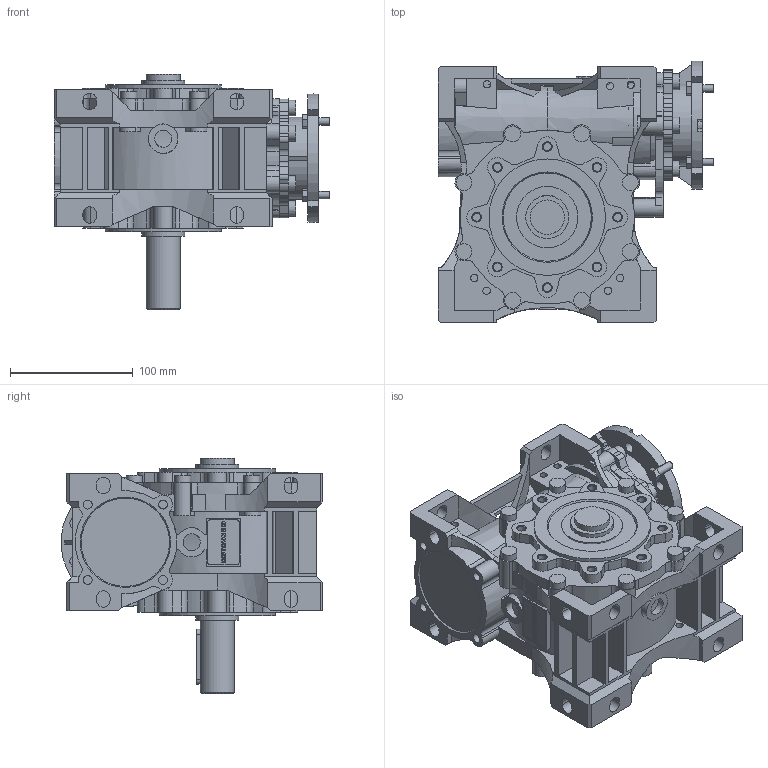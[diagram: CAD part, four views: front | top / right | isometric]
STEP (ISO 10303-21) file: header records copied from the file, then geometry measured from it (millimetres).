
FILE_DESCRIPTION(/* description */ ('STEP AP203'),/* implementation_level */ '2;1');
FILE_NAME(/* name */ 'NMRVP_075_105x14_28_NO_NO_-_-_S28_S_-_-_NO_NO_-_---_---------------',/* time_stamp */ '2025-12-03T08:36:37+01:00',/* author */ ('License CC BY-ND 4.0'),/* organization */ ('CADENAS'),/* preprocessor_version */ 'ST-DEVELOPER v20',/* originating_system */ 'PARTsolutions',/* authorisation */ ' ');
FILE_SCHEMA (('CONFIG_CONTROL_DESIGN'));
Length unit declared in the file: millimetre
Products named in the file (7): NMRVP 075 105x14 28 NO NO - - S28 S - - NO NO - ---(---------------); W.075.01.M; 075-28 (120); AL 075-28(1-2)-p; W.075.14.14.M-p; 7571 B14; 75-50
Assembly tree (6 placements, depth 2):
  NMRVP 075 105x14 28 NO NO - - S28 S - - NO NO - ---(---------------)
    W.075.01.M
    075-28 (120)
    AL 075-28(1-2)-p
    W.075.14.14.M-p
    7571 B14
    75-50
Bounding box: 224.94 x 213.33 x 192 mm (x, y, z)
Volume: 2868588.8 mm3; surface area: 410992.6 mm2
Topology: 6 solids, 12 shells, 1574 faces, 4247 edges, 2813 vertices
Faces by surface type: plane 888, cylinder 641, cone 43, torus 2
Full cylindrical faces by diameter (mm): 6 x18, 6.647 x16, 7.26 x12, 8.376 x1, 8.5 x6, 10 x1, 10.5 x1, 13 x14, 14 x3, 24 x1, 28 x3, 29 x1, 31 x1, 35 x2, 40 x1, 42 x1, 48 x1, 50 x3, 68 x3, 70 x1, 95 x2
Entity records: 49491 total; most frequent: CARTESIAN_POINT 9054, DIRECTION 8579, ORIENTED_EDGE 8214, EDGE_CURVE 4107, AXIS2_PLACEMENT_3D 3033, VERTEX_POINT 2797, LINE 2513, VECTOR 2513
